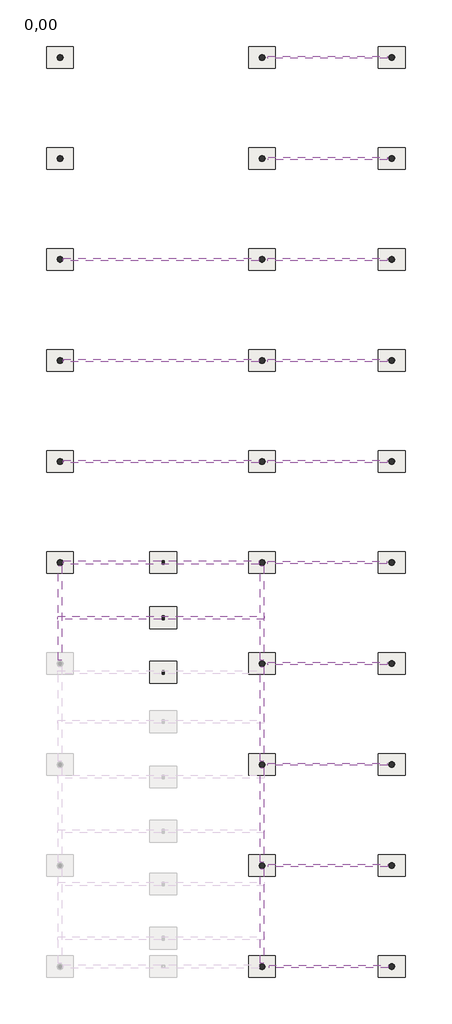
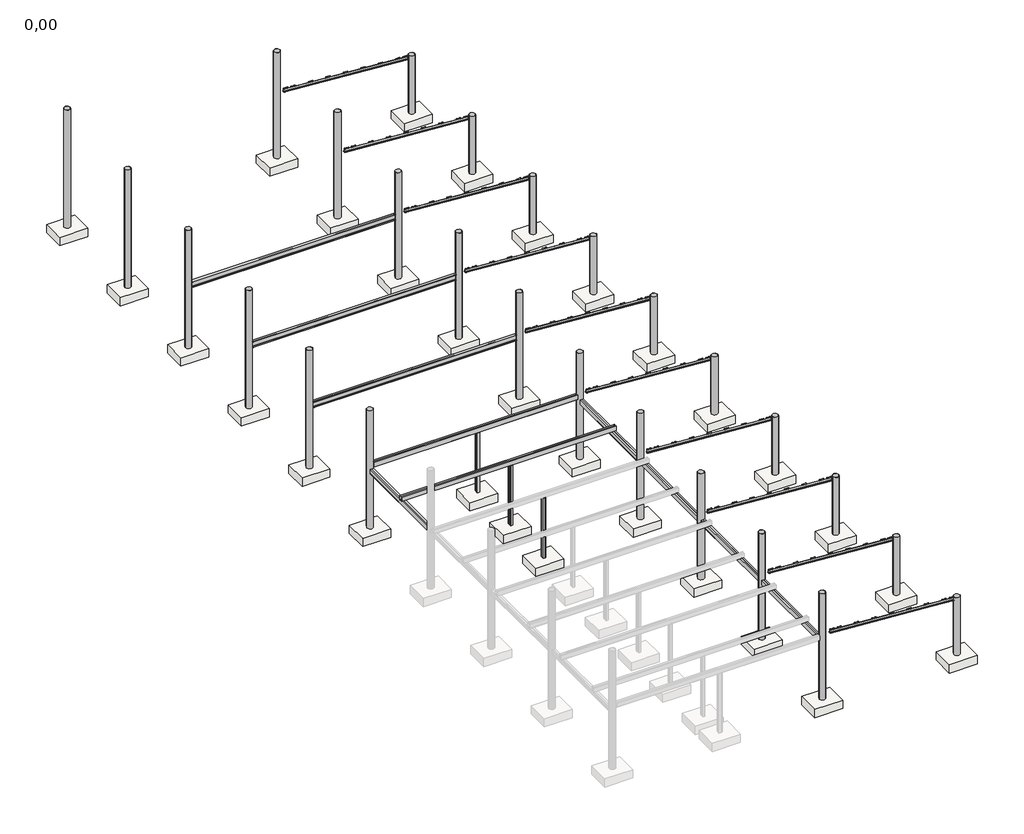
# One storey, part 2 of 2: 34 columns, 29 slabs, 20 beams.
"""IFC4 building model written with IfcOpenShell, lengths in millimetres."""

from ifc_helpers import new_model, si_unit, point, frame_2d, origin, origin_with_axes, place, context, project, spatial, polyline, circle_curve, trimmed, segment, composite_curve, outline, extrude, transform, mapped, element, save
from components import beam_1_2i300_a4cd45c2, beam_2c_260_021a14dd, beam_2c_270e_83d6d2ef, beam_2c_270e_b8db1d55, i330pe_6d48d478, r355_6x10_451059c9, r355_6x10_30b81005, r355_6x10_7112e704, slab_1600x1300x500_7dd4b297

model = new_model("IFC4")

# Units and contexts
model_context = context("Model", 3, world=origin())
ifc_project = project(units=[si_unit("LENGTHUNIT", "METRE", prefix="MILLI")], contexts=[model_context])

# Site, building, storey
site = spatial("IfcSite", under=ifc_project)
building = spatial("IfcBuilding", under=site)
storey = spatial("IfcBuildingStorey", under=building, Name="0,00", Elevation=0.0)

# Beams
placement = place(None, origin())
beam_1_2i300_shape = beam_1_2i300_a4cd45c2(model_context)
element("IfcBeam", 1, ObjectType="Wzmocnienie do belek - dokładny podział : 1/2I300", at=placement, inside=storey, context=model_context, shape_type="MappedRepresentation", body=[
    mapped(beam_1_2i300_shape, transform((4333.1344195, -36912.318995, 4034.3512677), x_axis=(0.9974611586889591, 0.0, -0.07121261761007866), y_axis=(0.0, 1.0000000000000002, 0.0), z_axis=(0.07121261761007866, 0.0, 0.997461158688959))),
])
element("IfcBeam", 2, ObjectType="Wzmocnienie do belek - dokładny podział : 1/2I300", at=placement, inside=storey, context=model_context, shape_type="MappedRepresentation", body=[
    mapped(beam_1_2i300_shape, transform((4292.3510603, -30911.3173906, 4027.0046972), x_axis=(0.997461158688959, 0.0, -0.0712126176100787), y_axis=(0.0, 1.0, 0.0), z_axis=(0.07121261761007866, 0.0, 0.997461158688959))),
])
element("IfcBeam", 3, ObjectType="Wzmocnienie do belek - dokładny podział : 1/2I300", at=placement, inside=storey, context=model_context, shape_type="MappedRepresentation", body=[
    mapped(beam_1_2i300_shape, transform((4262.3883825, -24909.3570618, 4029.1438488), x_axis=(0.9974611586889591, 0.0, -0.07121261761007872), y_axis=(0.0, 1.0000000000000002, 0.0), z_axis=(0.07121261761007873, 0.0, 0.997461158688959))),
])
element("IfcBeam", 4, ObjectType="Wzmocnienie do belek - dokładny podział : 1/2I300", at=placement, inside=storey, context=model_context, shape_type="MappedRepresentation", body=[
    mapped(beam_1_2i300_shape, transform((4272.7051825, -18911.4095905, 4028.4072925), x_axis=(0.9974611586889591, 0.0, -0.07121261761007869), y_axis=(0.0, 1.0000000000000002, 0.0), z_axis=(0.07121261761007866, 0.0, 0.997461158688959))),
])
element("IfcBeam", 5, ObjectType="Wzmocnienie do belek - dokładny podział : 1/2I300", at=placement, inside=storey, context=model_context, shape_type="MappedRepresentation", body=[
    mapped(beam_1_2i300_shape, transform((4257.2697902, -12910.6408419, 4029.509285), x_axis=(0.997461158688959, 0.0, -0.07121261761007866), y_axis=(0.0, 1.0, 0.0), z_axis=(0.07121261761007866, 0.0, 0.997461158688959))),
])
element("IfcBeam", 6, ObjectType="Wzmocnienie do belek - dokładny podział : 1/2I300", at=placement, inside=storey, context=model_context, shape_type="MappedRepresentation", body=[
    mapped(beam_1_2i300_shape, transform((4265.0414291, -6910.850217, 4028.9544376), x_axis=(0.997461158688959, 0.0, -0.07121261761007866), y_axis=(0.0, 1.0, 0.0), z_axis=(0.07121261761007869, 0.0, 0.997461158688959))),
])
element("IfcBeam", 7, ObjectType="Wzmocnienie do belek - dokładny podział : 1/2I300", at=placement, inside=storey, context=model_context, shape_type="MappedRepresentation", body=[
    mapped(beam_1_2i300_shape, transform((4266.6212077, -910.9235463, 4028.8416511), x_axis=(0.997461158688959, 0.0, -0.07121261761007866), y_axis=(0.0, 1.0, 0.0), z_axis=(0.07121261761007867, 0.0, 0.997461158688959))),
])
element("IfcBeam", 8, ObjectType="Wzmocnienie do belek - dokładny podział : 1/2I300", at=placement, inside=storey, context=model_context, shape_type="MappedRepresentation", body=[
    mapped(beam_1_2i300_shape, transform((4260.7198895, 5087.3362778, 4029.262969), x_axis=(0.9974611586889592, 0.0, -0.07121261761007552), y_axis=(0.0, 1.0000000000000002, 0.0), z_axis=(0.07121261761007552, 0.0, 0.9974611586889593))),
])
element("IfcBeam", 9, ObjectType="Wzmocnienie do belek - dokładny podział : 1/2I300", at=placement, inside=storey, context=model_context, shape_type="MappedRepresentation", body=[
    mapped(beam_1_2i300_shape, transform((4280.7041109, 11085.9754383, 4027.836218), x_axis=(0.997461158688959, 0.0, -0.07121261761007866), y_axis=(0.0, 1.0, 0.0), z_axis=(0.07121261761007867, 0.0, 0.997461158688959))),
])
element("IfcBeam", 10, ObjectType="Wzmocnienie do belek - dokładny podział : 1/2I300", at=placement, inside=storey, context=model_context, shape_type="MappedRepresentation", body=[
    mapped(beam_1_2i300_shape, transform((4273.2402527, 17090.3154767, 4028.3690918), x_axis=(0.9974611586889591, 0.0, -0.07121261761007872), y_axis=(0.0, 1.0000000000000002, 0.0), z_axis=(0.0712126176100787, 0.0, 0.997461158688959))),
])
beam_2c_260_shape = beam_2c_260_021a14dd(model_context)
element("IfcBeam", 11, ObjectType="RPLN C - Ceowniki normalne_beamx2 : 2C 260", at=placement, inside=storey, context=model_context, shape_type="MappedRepresentation", body=[
    mapped(beam_2c_260_shape, transform((-2097.0111104, -16192.4816585, 3770.0), x_axis=(1.0, 0.0, 0.0), y_axis=(0.0, 1.0, 0.0), z_axis=(0.0, 0.0, 1.0))),
])
beam_2c_270e_shape = beam_2c_270e_83d6d2ef(model_context)
element("IfcBeam", 12, ObjectType="RPLN C - Ceowniki ekonomiczne_beamx2 : 2C 270E", at=placement, inside=storey, context=model_context, shape_type="MappedRepresentation", body=[
    mapped(beam_2c_270e_shape, transform((-8097.0111104, -15912.4816585, 3505.0), x_axis=(0.0, 1.0, 0.0), y_axis=(-1.0, 0.0, 0.0), z_axis=(0.0, 0.0, 1.0))),
])
element("IfcBeam", 13, ObjectType="RPLN C - Ceowniki ekonomiczne_beamx2 : 2C 270E", at=placement, inside=storey, context=model_context, shape_type="MappedRepresentation", body=[
    mapped(beam_2c_270e_shape, transform((3902.9888896, -15912.4816585, 3505.0), x_axis=(0.0, -1.0, 0.0), y_axis=(1.0, 0.0, 0.0), z_axis=(0.0, 0.0, 1.0))),
])
element("IfcBeam", 14, ObjectType="RPLN C - Ceowniki ekonomiczne_beamx2 : 2C 270E", at=placement, inside=storey, context=model_context, shape_type="MappedRepresentation", body=[
    mapped(beam_2c_270e_shape, transform((3902.9888896, -21912.4816585, 3505.0), x_axis=(0.0, -1.0, 0.0), y_axis=(1.0, 0.0, 0.0), z_axis=(0.0, 0.0, 1.0))),
])
element("IfcBeam", 15, ObjectType="RPLN C - Ceowniki ekonomiczne_beamx2 : 2C 270E", at=placement, inside=storey, context=model_context, shape_type="MappedRepresentation", body=[
    mapped(beam_2c_270e_shape, transform((3902.9888896, -27912.4816585, 3505.0), x_axis=(0.0, -1.0, 0.0), y_axis=(1.0, 0.0, 0.0), z_axis=(0.0, 0.0, 1.0))),
])
element("IfcBeam", 16, ObjectType="RPLN C - Ceowniki ekonomiczne_beamx2 : 2C 270E", at=placement, inside=storey, context=model_context, shape_type="MappedRepresentation", body=[
    mapped(beam_2c_270e_shape, transform((3902.9888896, -33912.4816585, 3505.0), x_axis=(0.0, -1.0, 0.0), y_axis=(1.0, 0.0, 0.0), z_axis=(0.0, 0.0, 1.0))),
])
beam_2c_270e_2_shape = beam_2c_270e_b8db1d55(model_context)
element("IfcBeam", 17, ObjectType="RPLN C - Ceowniki ekonomiczne_beamx2 : 2C 270E", at=placement, inside=storey, context=model_context, shape_type="MappedRepresentation", body=[
    mapped(beam_2c_270e_2_shape, transform((-2097.0111104, -12912.4816585, 3765.0), x_axis=(1.0, 0.0, 0.0), y_axis=(0.0, 1.0, 0.0), z_axis=(0.0, 0.0, 1.0))),
])
i330pe_shape = i330pe_6d48d478(model_context)
element("IfcBeam", 18, ObjectType="RPLN IPE - Dwuteowniki równoległościenne : I330PE", at=placement, inside=storey, context=model_context, shape_type="MappedRepresentation", body=[
    mapped(i330pe_shape, transform((-2097.0111104, -6912.4816585, 3735.0), x_axis=(1.0, 0.0, 0.0), y_axis=(0.0, 1.0, 0.0), z_axis=(0.0, 0.0, 1.0))),
])
element("IfcBeam", 19, ObjectType="RPLN IPE - Dwuteowniki równoległościenne : I330PE", at=placement, inside=storey, context=model_context, shape_type="MappedRepresentation", body=[
    mapped(i330pe_shape, transform((-2097.0111104, -912.4816585, 3735.0), x_axis=(1.0, 0.0, 0.0), y_axis=(0.0, 1.0, 0.0), z_axis=(0.0, 0.0, 1.0))),
])
element("IfcBeam", 20, ObjectType="RPLN IPE - Dwuteowniki równoległościenne : I330PE", at=placement, inside=storey, context=model_context, shape_type="MappedRepresentation", body=[
    mapped(i330pe_shape, transform((-2097.0111104, 5087.5183415, 3735.0), x_axis=(1.0, 0.0, 0.0), y_axis=(0.0, 1.0, 0.0), z_axis=(0.0, 0.0, 1.0))),
])

# Columns
element("IfcColumn", 21, ObjectType="RPLN C - Ceowniki normalne_Column -x2 : C120", at=placement, inside=storey, context=model_context, shape_type="SweptSolid", body=[
    extrude(outline(composite_curve([segment(polyline([(-1897.0111104, -12967.4816585), (-2017.0111104, -12967.4816585), (-2017.0111104, -12912.4816585), (-2008.0111104, -12912.4816585), (-2008.0111104, -12952.9816585)]), True, "CONTINUOUS"), segment(trimmed(circle_curve(frame_2d((-2000.5111104, -12952.9816585)), 7.5), [point((-2008.0111104, -12952.9816585))], [point((-2000.5111104, -12960.4816585))], True, "CARTESIAN"), True, "CONTINUOUS"), segment(polyline([(-2000.5111104, -12960.4816585), (-1913.5111104, -12960.4816585)]), True, "CONTINUOUS"), segment(trimmed(circle_curve(frame_2d((-1913.5111104, -12952.9816585)), 7.5), [point((-1913.5111104, -12960.4816585))], [point((-1906.0111104, -12952.9816585))], True, "CARTESIAN"), True, "CONTINUOUS"), segment(polyline([(-1906.0111104, -12952.9816585), (-1906.0111104, -12912.4816585), (-1897.0111104, -12912.4816585), (-1897.0111104, -12967.4816585)]), True, "CONTINUOUS")], self_intersect=False)), origin_with_axes(), (0.0, 0.0, 1.0), 3630.0),
    extrude(outline(composite_curve([segment(polyline([(-1897.0111104, -12857.4816585), (-1897.0111104, -12912.4816585), (-1906.0111104, -12912.4816585), (-1906.0111104, -12872.4816585)]), True, "CONTINUOUS"), segment(trimmed(circle_curve(frame_2d((-1914.0111104, -12872.4816585)), 8.0), [point((-1906.0111104, -12872.4816585))], [point((-1914.0111104, -12864.4816585))], True, "CARTESIAN"), True, "CONTINUOUS"), segment(polyline([(-1914.0111104, -12864.4816585), (-2000.5111104, -12864.4816585)]), True, "CONTINUOUS"), segment(trimmed(circle_curve(frame_2d((-2000.5111104, -12871.9816585)), 7.5), [point((-2000.5111104, -12864.4816585))], [point((-2008.0111104, -12871.9816585))], True, "CARTESIAN"), True, "CONTINUOUS"), segment(polyline([(-2008.0111104, -12871.9816585), (-2008.0111104, -12912.4816585), (-2017.0111104, -12912.4816585), (-2017.0111104, -12857.4816585), (-1897.0111104, -12857.4816585)]), True, "CONTINUOUS")], self_intersect=False)), origin_with_axes(), (0.0, 0.0, 1.0), 3630.0),
])
element("IfcColumn", 22, ObjectType="RPLN C - Ceowniki normalne_Column -x2 : C120", at=placement, inside=storey, context=model_context, shape_type="SweptSolid", body=[
    extrude(outline(composite_curve([segment(polyline([(-2017.0111104, -16137.4816585), (-1897.0111104, -16137.4816585), (-1897.0111104, -16192.4816585), (-1906.0111104, -16192.4816585), (-1906.0111104, -16151.9816585)]), True, "CONTINUOUS"), segment(trimmed(circle_curve(frame_2d((-1913.5111104, -16151.9816585)), 7.5), [point((-1906.0111104, -16151.9816585))], [point((-1913.5111104, -16144.4816585))], True, "CARTESIAN"), True, "CONTINUOUS"), segment(polyline([(-1913.5111104, -16144.4816585), (-2000.5111104, -16144.4816585)]), True, "CONTINUOUS"), segment(trimmed(circle_curve(frame_2d((-2000.5111104, -16151.9816585)), 7.5), [point((-2000.5111104, -16144.4816585))], [point((-2008.0111104, -16151.9816585))], True, "CARTESIAN"), True, "CONTINUOUS"), segment(polyline([(-2008.0111104, -16151.9816585), (-2008.0111104, -16192.4816585), (-2017.0111104, -16192.4816585), (-2017.0111104, -16137.4816585)]), True, "CONTINUOUS")], self_intersect=False)), origin_with_axes(), (0.0, 0.0, 1.0), 3640.0),
    extrude(outline(composite_curve([segment(polyline([(-2017.0111104, -16247.4816585), (-2017.0111104, -16192.4816585), (-2008.0111104, -16192.4816585), (-2008.0111104, -16232.4816585)]), True, "CONTINUOUS"), segment(trimmed(circle_curve(frame_2d((-2000.0111104, -16232.4816585)), 8.0), [point((-2008.0111104, -16232.4816585))], [point((-2000.0111104, -16240.4816585))], True, "CARTESIAN"), True, "CONTINUOUS"), segment(polyline([(-2000.0111104, -16240.4816585), (-1913.5111104, -16240.4816585)]), True, "CONTINUOUS"), segment(trimmed(circle_curve(frame_2d((-1913.5111104, -16232.9816585)), 7.5), [point((-1913.5111104, -16240.4816585))], [point((-1906.0111104, -16232.9816585))], True, "CARTESIAN"), True, "CONTINUOUS"), segment(polyline([(-1906.0111104, -16232.9816585), (-1906.0111104, -16192.4816585), (-1897.0111104, -16192.4816585), (-1897.0111104, -16247.4816585), (-2017.0111104, -16247.4816585)]), True, "CONTINUOUS")], self_intersect=False)), origin_with_axes(), (0.0, 0.0, 1.0), 3640.0),
])
element("IfcColumn", 23, ObjectType="RPLN C - Ceowniki normalne_Column : C120", at=placement, inside=storey, context=model_context, shape_type="SweptSolid", body=[
    extrude(outline(composite_curve([segment(polyline([(-2017.0111104, -12802.4816585), (-1897.0111104, -12802.4816585), (-1897.0111104, -12857.4816585), (-1906.0111104, -12857.4816585), (-1906.0111104, -12818.4816585)]), True, "CONTINUOUS"), segment(trimmed(circle_curve(frame_2d((-1915.0111104, -12818.4816585)), 9.0), [point((-1906.0111104, -12818.4816585))], [point((-1915.0111104, -12809.4816585))], True, "CARTESIAN"), True, "CONTINUOUS"), segment(polyline([(-1915.0111104, -12809.4816585), (-1999.0111104, -12809.4816585)]), True, "CONTINUOUS"), segment(trimmed(circle_curve(frame_2d((-1999.0111104, -12818.4816585)), 9.0), [point((-1999.0111104, -12809.4816585))], [point((-2008.0111104, -12818.4816585))], True, "CARTESIAN"), True, "CONTINUOUS"), segment(polyline([(-2008.0111104, -12818.4816585), (-2008.0111104, -12857.4816585), (-2017.0111104, -12857.4816585), (-2017.0111104, -12802.4816585)]), True, "CONTINUOUS")], self_intersect=False)), origin_with_axes(), (0.0, 0.0, 1.0), 3630.0),
])
element("IfcColumn", 24, ObjectType="RPLN C - Ceowniki normalne_Column : C120", at=placement, inside=storey, context=model_context, shape_type="SweptSolid", body=[
    extrude(outline(composite_curve([segment(polyline([(-1897.0111104, -13022.4816585), (-2017.0111104, -13022.4816585), (-2017.0111104, -12967.4816585), (-2008.0111104, -12967.4816585), (-2008.0111104, -13006.4816585)]), True, "CONTINUOUS"), segment(trimmed(circle_curve(frame_2d((-1999.0111104, -13006.4816585)), 9.0), [point((-2008.0111104, -13006.4816585))], [point((-1999.0111104, -13015.4816585))], True, "CARTESIAN"), True, "CONTINUOUS"), segment(polyline([(-1999.0111104, -13015.4816585), (-1915.0111104, -13015.4816585)]), True, "CONTINUOUS"), segment(trimmed(circle_curve(frame_2d((-1915.0111104, -13006.4816585)), 9.0), [point((-1915.0111104, -13015.4816585))], [point((-1906.0111104, -13006.4816585))], True, "CARTESIAN"), True, "CONTINUOUS"), segment(polyline([(-1906.0111104, -13006.4816585), (-1906.0111104, -12967.4816585), (-1897.0111104, -12967.4816585), (-1897.0111104, -13022.4816585)]), True, "CONTINUOUS")], self_intersect=False)), origin_with_axes(), (0.0, 0.0, 1.0), 3630.0),
])
element("IfcColumn", 25, ObjectType="RPLN C - Ceowniki normalne_Column : C120", at=placement, inside=storey, context=model_context, shape_type="SweptSolid", body=[
    extrude(outline(composite_curve([segment(polyline([(-2017.0111104, -16082.4816585), (-1897.0111104, -16082.4816585), (-1897.0111104, -16137.4816585), (-1906.0111104, -16137.4816585), (-1906.0111104, -16098.4816585)]), True, "CONTINUOUS"), segment(trimmed(circle_curve(frame_2d((-1915.0111104, -16098.4816585)), 9.0), [point((-1906.0111104, -16098.4816585))], [point((-1915.0111104, -16089.4816585))], True, "CARTESIAN"), True, "CONTINUOUS"), segment(polyline([(-1915.0111104, -16089.4816585), (-1999.0111104, -16089.4816585)]), True, "CONTINUOUS"), segment(trimmed(circle_curve(frame_2d((-1999.0111104, -16098.4816585)), 9.0), [point((-1999.0111104, -16089.4816585))], [point((-2008.0111104, -16098.4816585))], True, "CARTESIAN"), True, "CONTINUOUS"), segment(polyline([(-2008.0111104, -16098.4816585), (-2008.0111104, -16137.4816585), (-2017.0111104, -16137.4816585), (-2017.0111104, -16082.4816585)]), True, "CONTINUOUS")], self_intersect=False)), origin_with_axes(), (0.0, 0.0, 1.0), 3640.0),
])
element("IfcColumn", 26, ObjectType="RPLN C - Ceowniki normalne_Column : C120", at=placement, inside=storey, context=model_context, shape_type="SweptSolid", body=[
    extrude(outline(composite_curve([segment(polyline([(-1897.0111104, -16302.4816585), (-2017.0111104, -16302.4816585), (-2017.0111104, -16247.4816585), (-2008.0111104, -16247.4816585), (-2008.0111104, -16286.4816585)]), True, "CONTINUOUS"), segment(trimmed(circle_curve(frame_2d((-1999.0111104, -16286.4816585)), 9.0), [point((-2008.0111104, -16286.4816585))], [point((-1999.0111104, -16295.4816585))], True, "CARTESIAN"), True, "CONTINUOUS"), segment(polyline([(-1999.0111104, -16295.4816585), (-1915.0111104, -16295.4816585)]), True, "CONTINUOUS"), segment(trimmed(circle_curve(frame_2d((-1915.0111104, -16286.4816585)), 9.0), [point((-1915.0111104, -16295.4816585))], [point((-1906.0111104, -16286.4816585))], True, "CARTESIAN"), True, "CONTINUOUS"), segment(polyline([(-1906.0111104, -16286.4816585), (-1906.0111104, -16247.4816585), (-1897.0111104, -16247.4816585), (-1897.0111104, -16302.4816585)]), True, "CONTINUOUS")], self_intersect=False)), origin_with_axes(), (0.0, 0.0, 1.0), 3640.0),
])
element("IfcColumn", 27, ObjectType="RPLN C - Ceowniki normalne_Column : C120", at=placement, inside=storey, context=model_context, shape_type="SweptSolid", body=[
    extrude(outline(composite_curve([segment(polyline([(-2017.0111104, -19332.4816585), (-1897.0111104, -19332.4816585), (-1897.0111104, -19387.4816585), (-1906.0111104, -19387.4816585), (-1906.0111104, -19348.4816585)]), True, "CONTINUOUS"), segment(trimmed(circle_curve(frame_2d((-1915.0111104, -19348.4816585)), 9.0), [point((-1906.0111104, -19348.4816585))], [point((-1915.0111104, -19339.4816585))], True, "CARTESIAN"), True, "CONTINUOUS"), segment(polyline([(-1915.0111104, -19339.4816585), (-1999.0111104, -19339.4816585)]), True, "CONTINUOUS"), segment(trimmed(circle_curve(frame_2d((-1999.0111104, -19348.4816585)), 9.0), [point((-1999.0111104, -19339.4816585))], [point((-2008.0111104, -19348.4816585))], True, "CARTESIAN"), True, "CONTINUOUS"), segment(polyline([(-2008.0111104, -19348.4816585), (-2008.0111104, -19387.4816585), (-2017.0111104, -19387.4816585), (-2017.0111104, -19332.4816585)]), True, "CONTINUOUS")], self_intersect=False)), origin_with_axes(), (0.0, 0.0, 1.0), 3640.0),
])
element("IfcColumn", 28, ObjectType="RPLN C - Ceowniki normalne_Column : C120", at=placement, inside=storey, context=model_context, shape_type="SweptSolid", body=[
    extrude(outline(composite_curve([segment(polyline([(-1897.0111104, -19552.4816585), (-2017.0111104, -19552.4816585), (-2017.0111104, -19497.4816585), (-2008.0111104, -19497.4816585), (-2008.0111104, -19536.4816585)]), True, "CONTINUOUS"), segment(trimmed(circle_curve(frame_2d((-1999.0111104, -19536.4816585)), 9.0), [point((-2008.0111104, -19536.4816585))], [point((-1999.0111104, -19545.4816585))], True, "CARTESIAN"), True, "CONTINUOUS"), segment(polyline([(-1999.0111104, -19545.4816585), (-1915.0111104, -19545.4816585)]), True, "CONTINUOUS"), segment(trimmed(circle_curve(frame_2d((-1915.0111104, -19536.4816585)), 9.0), [point((-1915.0111104, -19545.4816585))], [point((-1906.0111104, -19536.4816585))], True, "CARTESIAN"), True, "CONTINUOUS"), segment(polyline([(-1906.0111104, -19536.4816585), (-1906.0111104, -19497.4816585), (-1897.0111104, -19497.4816585), (-1897.0111104, -19552.4816585)]), True, "CONTINUOUS")], self_intersect=False)), origin_with_axes(), (0.0, 0.0, 1.0), 3640.0),
])
r355_6x10_shape = r355_6x10_451059c9(model_context)
element("IfcColumn", 29, ObjectType="RPLN RO - Rury okragle_Column : R355.6x10", at=placement, inside=storey, context=model_context, shape_type="MappedRepresentation", body=[
    mapped(r355_6x10_shape, transform((3902.9888896, -36912.4816585, 0.0), x_axis=(-1.0, 0.0, 0.0), y_axis=(0.0, -1.0, 0.0), z_axis=(0.0, 0.0, 1.0))),
])
element("IfcColumn", 30, ObjectType="RPLN RO - Rury okragle_Column : R355.6x10", at=placement, inside=storey, context=model_context, shape_type="MappedRepresentation", body=[
    mapped(r355_6x10_shape, transform((3902.9888896, -30912.4816585, 0.0), x_axis=(-1.0, 0.0, 0.0), y_axis=(0.0, -1.0, 0.0), z_axis=(0.0, 0.0, 1.0))),
])
element("IfcColumn", 31, ObjectType="RPLN RO - Rury okragle_Column : R355.6x10", at=placement, inside=storey, context=model_context, shape_type="MappedRepresentation", body=[
    mapped(r355_6x10_shape, transform((3902.9888896, -24912.4816585, 0.0), x_axis=(-1.0, 0.0, 0.0), y_axis=(0.0, -1.0, 0.0), z_axis=(0.0, 0.0, 1.0))),
])
element("IfcColumn", 32, ObjectType="RPLN RO - Rury okragle_Column : R355.6x10", at=placement, inside=storey, context=model_context, shape_type="MappedRepresentation", body=[
    mapped(r355_6x10_shape, transform((3902.9888896, -18912.4816585, 0.0), x_axis=(-1.0, 0.0, 0.0), y_axis=(0.0, -1.0, 0.0), z_axis=(0.0, 0.0, 1.0))),
])
element("IfcColumn", 33, ObjectType="RPLN RO - Rury okragle_Column : R355.6x10", at=placement, inside=storey, context=model_context, shape_type="MappedRepresentation", body=[
    mapped(r355_6x10_shape, transform((3902.9888896, -12912.4816585, 0.0), x_axis=(-1.0, 0.0, 0.0), y_axis=(0.0, -1.0, 0.0), z_axis=(0.0, 0.0, 1.0))),
])
element("IfcColumn", 34, ObjectType="RPLN RO - Rury okragle_Column : R355.6x10", at=placement, inside=storey, context=model_context, shape_type="MappedRepresentation", body=[
    mapped(r355_6x10_shape, transform((3902.9888896, -6912.4816585, 0.0), x_axis=(-1.0, 0.0, 0.0), y_axis=(0.0, -1.0, 0.0), z_axis=(0.0, 0.0, 1.0))),
])
element("IfcColumn", 35, ObjectType="RPLN RO - Rury okragle_Column : R355.6x10", at=placement, inside=storey, context=model_context, shape_type="MappedRepresentation", body=[
    mapped(r355_6x10_shape, transform((3902.9888896, -912.4816585, 0.0), x_axis=(-1.0, 0.0, 0.0), y_axis=(0.0, -1.0, 0.0), z_axis=(0.0, 0.0, 1.0))),
])
element("IfcColumn", 36, ObjectType="RPLN RO - Rury okragle_Column : R355.6x10", at=placement, inside=storey, context=model_context, shape_type="MappedRepresentation", body=[
    mapped(r355_6x10_shape, transform((3902.9888896, 5087.5183415, 0.0), x_axis=(1.0, 0.0, 0.0), y_axis=(0.0, 1.0, 0.0), z_axis=(0.0, 0.0, 1.0))),
])
element("IfcColumn", 37, ObjectType="RPLN RO - Rury okragle_Column : R355.6x10", at=placement, inside=storey, context=model_context, shape_type="MappedRepresentation", body=[
    mapped(r355_6x10_shape, transform((3902.9888896, 11087.5183415, 0.0), x_axis=(-1.0, 0.0, 0.0), y_axis=(0.0, -1.0, 0.0), z_axis=(0.0, 0.0, 1.0))),
])
element("IfcColumn", 38, ObjectType="RPLN RO - Rury okragle_Column : R355.6x10", at=placement, inside=storey, context=model_context, shape_type="MappedRepresentation", body=[
    mapped(r355_6x10_shape, transform((3902.9888896, 17087.5183415, 0.0), x_axis=(-1.0, 0.0, 0.0), y_axis=(0.0, -1.0, 0.0), z_axis=(0.0, 0.0, 1.0))),
])
r355_6x10_2_shape = r355_6x10_30b81005(model_context)
element("IfcColumn", 39, ObjectType="RPLN RO - Rury okragle_Column : R355.6x10", at=placement, inside=storey, context=model_context, shape_type="MappedRepresentation", body=[
    mapped(r355_6x10_2_shape, transform((-8097.0111104, -12912.4816585, 0.0), x_axis=(-1.0, 0.0, 0.0), y_axis=(0.0, -1.0, 0.0), z_axis=(0.0, 0.0, 1.0))),
])
element("IfcColumn", 40, ObjectType="RPLN RO - Rury okragle_Column : R355.6x10", at=placement, inside=storey, context=model_context, shape_type="MappedRepresentation", body=[
    mapped(r355_6x10_2_shape, transform((-8097.0111104, -6912.4816585, 0.0), x_axis=(-1.0, 0.0, 0.0), y_axis=(0.0, -1.0, 0.0), z_axis=(0.0, 0.0, 1.0))),
])
element("IfcColumn", 41, ObjectType="RPLN RO - Rury okragle_Column : R355.6x10", at=placement, inside=storey, context=model_context, shape_type="MappedRepresentation", body=[
    mapped(r355_6x10_2_shape, transform((-8097.0111104, -912.4816585, 0.0), x_axis=(-1.0, 0.0, 0.0), y_axis=(0.0, -1.0, 0.0), z_axis=(0.0, 0.0, 1.0))),
])
element("IfcColumn", 42, ObjectType="RPLN RO - Rury okragle_Column : R355.6x10", at=placement, inside=storey, context=model_context, shape_type="MappedRepresentation", body=[
    mapped(r355_6x10_2_shape, transform((-8097.0111104, 5087.5183415, 0.0), x_axis=(1.0, 0.0, 0.0), y_axis=(0.0, 1.0, 0.0), z_axis=(0.0, 0.0, 1.0))),
])
element("IfcColumn", 43, ObjectType="RPLN RO - Rury okragle_Column : R355.6x10", at=placement, inside=storey, context=model_context, shape_type="MappedRepresentation", body=[
    mapped(r355_6x10_2_shape, transform((-8097.0111104, 11087.5183415, 0.0), x_axis=(-1.0, 0.0, 0.0), y_axis=(0.0, -1.0, 0.0), z_axis=(0.0, 0.0, 1.0))),
])
element("IfcColumn", 44, ObjectType="RPLN RO - Rury okragle_Column : R355.6x10", at=placement, inside=storey, context=model_context, shape_type="MappedRepresentation", body=[
    mapped(r355_6x10_2_shape, transform((-8097.0111104, 17087.5183415, 0.0), x_axis=(-1.0, 0.0, 0.0), y_axis=(0.0, -1.0, 0.0), z_axis=(0.0, 0.0, 1.0))),
])
r355_6x10_3_shape = r355_6x10_7112e704(model_context)
element("IfcColumn", 45, ObjectType="RPLN RO - Rury okragle_Column : R355.6x10", at=placement, inside=storey, context=model_context, shape_type="MappedRepresentation", body=[
    mapped(r355_6x10_3_shape, transform((11602.963474, -36912.4816585, 0.0), x_axis=(-1.0, 0.0, 0.0), y_axis=(0.0, -1.0, 0.0), z_axis=(0.0, 0.0, 1.0))),
])
element("IfcColumn", 46, ObjectType="RPLN RO - Rury okragle_Column : R355.6x10", at=placement, inside=storey, context=model_context, shape_type="MappedRepresentation", body=[
    mapped(r355_6x10_3_shape, transform((11602.963474, -30912.4816585, 0.0), x_axis=(-1.0, 0.0, 0.0), y_axis=(0.0, -1.0, 0.0), z_axis=(0.0, 0.0, 1.0))),
])
element("IfcColumn", 47, ObjectType="RPLN RO - Rury okragle_Column : R355.6x10", at=placement, inside=storey, context=model_context, shape_type="MappedRepresentation", body=[
    mapped(r355_6x10_3_shape, transform((11602.963474, -24912.4816585, 0.0), x_axis=(-1.0, 0.0, 0.0), y_axis=(0.0, -1.0, 0.0), z_axis=(0.0, 0.0, 1.0))),
])
element("IfcColumn", 48, ObjectType="RPLN RO - Rury okragle_Column : R355.6x10", at=placement, inside=storey, context=model_context, shape_type="MappedRepresentation", body=[
    mapped(r355_6x10_3_shape, transform((11602.963474, -18912.4816585, 0.0), x_axis=(-1.0, 0.0, 0.0), y_axis=(0.0, -1.0, 0.0), z_axis=(0.0, 0.0, 1.0))),
])
element("IfcColumn", 49, ObjectType="RPLN RO - Rury okragle_Column : R355.6x10", at=placement, inside=storey, context=model_context, shape_type="MappedRepresentation", body=[
    mapped(r355_6x10_3_shape, transform((11602.963474, -12912.4816585, 0.0), x_axis=(-1.0, 0.0, 0.0), y_axis=(0.0, -1.0, 0.0), z_axis=(0.0, 0.0, 1.0))),
])
element("IfcColumn", 50, ObjectType="RPLN RO - Rury okragle_Column : R355.6x10", at=placement, inside=storey, context=model_context, shape_type="MappedRepresentation", body=[
    mapped(r355_6x10_3_shape, transform((11602.963474, -6912.4816585, 0.0), x_axis=(-1.0, 0.0, 0.0), y_axis=(0.0, -1.0, 0.0), z_axis=(0.0, 0.0, 1.0))),
])
element("IfcColumn", 51, ObjectType="RPLN RO - Rury okragle_Column : R355.6x10", at=placement, inside=storey, context=model_context, shape_type="MappedRepresentation", body=[
    mapped(r355_6x10_3_shape, transform((11602.963474, -912.4816585, 0.0), x_axis=(-1.0, 0.0, 0.0), y_axis=(0.0, -1.0, 0.0), z_axis=(0.0, 0.0, 1.0))),
])
element("IfcColumn", 52, ObjectType="RPLN RO - Rury okragle_Column : R355.6x10", at=placement, inside=storey, context=model_context, shape_type="MappedRepresentation", body=[
    mapped(r355_6x10_3_shape, transform((11602.963474, 5087.5183415, 0.0), x_axis=(1.0, 0.0, 0.0), y_axis=(0.0, 1.0, 0.0), z_axis=(0.0, 0.0, 1.0))),
])
element("IfcColumn", 53, ObjectType="RPLN RO - Rury okragle_Column : R355.6x10", at=placement, inside=storey, context=model_context, shape_type="MappedRepresentation", body=[
    mapped(r355_6x10_3_shape, transform((11602.963474, 11087.5183415, 0.0), x_axis=(-1.0, 0.0, 0.0), y_axis=(0.0, -1.0, 0.0), z_axis=(0.0, 0.0, 1.0))),
])
element("IfcColumn", 54, ObjectType="RPLN RO - Rury okragle_Column : R355.6x10", at=placement, inside=storey, context=model_context, shape_type="MappedRepresentation", body=[
    mapped(r355_6x10_3_shape, transform((11602.963474, 17087.5183415, 0.0), x_axis=(-1.0, 0.0, 0.0), y_axis=(0.0, -1.0, 0.0), z_axis=(0.0, 0.0, 1.0))),
])

# Slabs
slab_1600x1300x500_shape = slab_1600x1300x500_7dd4b297(model_context)
element("IfcSlab", 55, ObjectType="Prostokąt-Podstawy_M : 1600x1300x500", at=placement, inside=storey, context=model_context, shape_type="MappedRepresentation", body=[
    mapped(slab_1600x1300x500_shape, transform((3902.9888896, -36912.4816585, 0.0), x_axis=(0.0, -1.0, 0.0), y_axis=(1.0, 0.0, 0.0), z_axis=(0.0, 0.0, 1.0))),
])
element("IfcSlab", 56, ObjectType="Prostokąt-Podstawy_M : 1600x1300x500", at=placement, inside=storey, context=model_context, shape_type="MappedRepresentation", body=[
    mapped(slab_1600x1300x500_shape, transform((3902.9888896, -30912.4816585, 0.0), x_axis=(0.0, -1.0, 0.0), y_axis=(1.0, 0.0, 0.0), z_axis=(0.0, 0.0, 1.0))),
])
element("IfcSlab", 57, ObjectType="Prostokąt-Podstawy_M : 1600x1300x500", at=placement, inside=storey, context=model_context, shape_type="MappedRepresentation", body=[
    mapped(slab_1600x1300x500_shape, transform((3902.9888896, -24912.4816585, 0.0), x_axis=(0.0, -1.0, 0.0), y_axis=(1.0, 0.0, 0.0), z_axis=(0.0, 0.0, 1.0))),
])
element("IfcSlab", 58, ObjectType="Prostokąt-Podstawy_M : 1600x1300x500", at=placement, inside=storey, context=model_context, shape_type="MappedRepresentation", body=[
    mapped(slab_1600x1300x500_shape, transform((3902.9888896, -18912.4816585, 0.0), x_axis=(0.0, -1.0, 0.0), y_axis=(1.0, 0.0, 0.0), z_axis=(0.0, 0.0, 1.0))),
])
element("IfcSlab", 59, ObjectType="Prostokąt-Podstawy_M : 1600x1300x500", at=placement, inside=storey, context=model_context, shape_type="MappedRepresentation", body=[
    mapped(slab_1600x1300x500_shape, transform((3902.9888896, -12912.4816585, 0.0), x_axis=(0.0, -1.0, 0.0), y_axis=(1.0, 0.0, 0.0), z_axis=(0.0, 0.0, 1.0))),
])
element("IfcSlab", 60, ObjectType="Prostokąt-Podstawy_M : 1600x1300x500", at=placement, inside=storey, context=model_context, shape_type="MappedRepresentation", body=[
    mapped(slab_1600x1300x500_shape, transform((3902.9888896, -6912.4816585, 0.0), x_axis=(0.0, -1.0, 0.0), y_axis=(1.0, 0.0, 0.0), z_axis=(0.0, 0.0, 1.0))),
])
element("IfcSlab", 61, ObjectType="Prostokąt-Podstawy_M : 1600x1300x500", at=placement, inside=storey, context=model_context, shape_type="MappedRepresentation", body=[
    mapped(slab_1600x1300x500_shape, transform((3902.9888896, -912.4816585, 0.0), x_axis=(0.0, -1.0, 0.0), y_axis=(1.0, 0.0, 0.0), z_axis=(0.0, 0.0, 1.0))),
])
element("IfcSlab", 62, ObjectType="Prostokąt-Podstawy_M : 1600x1300x500", at=placement, inside=storey, context=model_context, shape_type="MappedRepresentation", body=[
    mapped(slab_1600x1300x500_shape, transform((3902.9888896, 5087.5183415, 0.0), x_axis=(0.0, 1.0, 0.0), y_axis=(-1.0, 0.0, 0.0), z_axis=(0.0, 0.0, 1.0))),
])
element("IfcSlab", 63, ObjectType="Prostokąt-Podstawy_M : 1600x1300x500", at=placement, inside=storey, context=model_context, shape_type="MappedRepresentation", body=[
    mapped(slab_1600x1300x500_shape, transform((3902.9888896, 11087.5183415, 0.0), x_axis=(0.0, -1.0, 0.0), y_axis=(1.0, 0.0, 0.0), z_axis=(0.0, 0.0, 1.0))),
])
element("IfcSlab", 64, ObjectType="Prostokąt-Podstawy_M : 1600x1300x500", at=placement, inside=storey, context=model_context, shape_type="MappedRepresentation", body=[
    mapped(slab_1600x1300x500_shape, transform((3902.9888896, 17087.5183415, 0.0), x_axis=(0.0, -1.0, 0.0), y_axis=(1.0, 0.0, 0.0), z_axis=(0.0, 0.0, 1.0))),
])
element("IfcSlab", 65, ObjectType="Prostokąt-Podstawy_M : 1600x1300x500", at=placement, inside=storey, context=model_context, shape_type="MappedRepresentation", body=[
    mapped(slab_1600x1300x500_shape, transform((11602.963474, -36912.4816585, 0.0), x_axis=(0.0, -1.0, 0.0), y_axis=(1.0, 0.0, 0.0), z_axis=(0.0, 0.0, 1.0))),
])
element("IfcSlab", 66, ObjectType="Prostokąt-Podstawy_M : 1600x1300x500", at=placement, inside=storey, context=model_context, shape_type="MappedRepresentation", body=[
    mapped(slab_1600x1300x500_shape, transform((11602.963474, -30912.4816585, 0.0), x_axis=(0.0, -1.0, 0.0), y_axis=(1.0, 0.0, 0.0), z_axis=(0.0, 0.0, 1.0))),
])
element("IfcSlab", 67, ObjectType="Prostokąt-Podstawy_M : 1600x1300x500", at=placement, inside=storey, context=model_context, shape_type="MappedRepresentation", body=[
    mapped(slab_1600x1300x500_shape, transform((11602.963474, -24912.4816585, 0.0), x_axis=(0.0, -1.0, 0.0), y_axis=(1.0, 0.0, 0.0), z_axis=(0.0, 0.0, 1.0))),
])
element("IfcSlab", 68, ObjectType="Prostokąt-Podstawy_M : 1600x1300x500", at=placement, inside=storey, context=model_context, shape_type="MappedRepresentation", body=[
    mapped(slab_1600x1300x500_shape, transform((11602.963474, -18912.4816585, 0.0), x_axis=(0.0, -1.0, 0.0), y_axis=(1.0, 0.0, 0.0), z_axis=(0.0, 0.0, 1.0))),
])
element("IfcSlab", 69, ObjectType="Prostokąt-Podstawy_M : 1600x1300x500", at=placement, inside=storey, context=model_context, shape_type="MappedRepresentation", body=[
    mapped(slab_1600x1300x500_shape, transform((11602.963474, -12912.4816585, 0.0), x_axis=(0.0, -1.0, 0.0), y_axis=(1.0, 0.0, 0.0), z_axis=(0.0, 0.0, 1.0))),
])
element("IfcSlab", 70, ObjectType="Prostokąt-Podstawy_M : 1600x1300x500", at=placement, inside=storey, context=model_context, shape_type="MappedRepresentation", body=[
    mapped(slab_1600x1300x500_shape, transform((11602.963474, -6912.4816585, 0.0), x_axis=(0.0, -1.0, 0.0), y_axis=(1.0, 0.0, 0.0), z_axis=(0.0, 0.0, 1.0))),
])
element("IfcSlab", 71, ObjectType="Prostokąt-Podstawy_M : 1600x1300x500", at=placement, inside=storey, context=model_context, shape_type="MappedRepresentation", body=[
    mapped(slab_1600x1300x500_shape, transform((11602.963474, -912.4816585, 0.0), x_axis=(0.0, -1.0, 0.0), y_axis=(1.0, 0.0, 0.0), z_axis=(0.0, 0.0, 1.0))),
])
element("IfcSlab", 72, ObjectType="Prostokąt-Podstawy_M : 1600x1300x500", at=placement, inside=storey, context=model_context, shape_type="MappedRepresentation", body=[
    mapped(slab_1600x1300x500_shape, transform((11602.963474, 5087.5183415, 0.0), x_axis=(0.0, 1.0, 0.0), y_axis=(-1.0, 0.0, 0.0), z_axis=(0.0, 0.0, 1.0))),
])
element("IfcSlab", 73, ObjectType="Prostokąt-Podstawy_M : 1600x1300x500", at=placement, inside=storey, context=model_context, shape_type="MappedRepresentation", body=[
    mapped(slab_1600x1300x500_shape, transform((11602.963474, 11087.5183415, 0.0), x_axis=(0.0, -1.0, 0.0), y_axis=(1.0, 0.0, 0.0), z_axis=(0.0, 0.0, 1.0))),
])
element("IfcSlab", 74, ObjectType="Prostokąt-Podstawy_M : 1600x1300x500", at=placement, inside=storey, context=model_context, shape_type="MappedRepresentation", body=[
    mapped(slab_1600x1300x500_shape, transform((11602.963474, 17087.5183415, 0.0), x_axis=(0.0, -1.0, 0.0), y_axis=(1.0, 0.0, 0.0), z_axis=(0.0, 0.0, 1.0))),
])
element("IfcSlab", 75, ObjectType="Prostokąt-Podstawy_M : 1600x1300x500", at=placement, inside=storey, context=model_context, shape_type="MappedRepresentation", body=[
    mapped(slab_1600x1300x500_shape, transform((-8097.0111104, -12912.4816585, 0.0), x_axis=(0.0, -1.0, 0.0), y_axis=(1.0, 0.0, 0.0), z_axis=(0.0, 0.0, 1.0))),
])
element("IfcSlab", 76, ObjectType="Prostokąt-Podstawy_M : 1600x1300x500", at=placement, inside=storey, context=model_context, shape_type="MappedRepresentation", body=[
    mapped(slab_1600x1300x500_shape, transform((-8097.0111104, -6912.4816585, 0.0), x_axis=(0.0, -1.0, 0.0), y_axis=(1.0, 0.0, 0.0), z_axis=(0.0, 0.0, 1.0))),
])
element("IfcSlab", 77, ObjectType="Prostokąt-Podstawy_M : 1600x1300x500", at=placement, inside=storey, context=model_context, shape_type="MappedRepresentation", body=[
    mapped(slab_1600x1300x500_shape, transform((-8097.0111104, -912.4816585, 0.0), x_axis=(0.0, -1.0, 0.0), y_axis=(1.0, 0.0, 0.0), z_axis=(0.0, 0.0, 1.0))),
])
element("IfcSlab", 78, ObjectType="Prostokąt-Podstawy_M : 1600x1300x500", at=placement, inside=storey, context=model_context, shape_type="MappedRepresentation", body=[
    mapped(slab_1600x1300x500_shape, transform((-8097.0111104, 5087.5183415, 0.0), x_axis=(0.0, 1.0, 0.0), y_axis=(-1.0, 0.0, 0.0), z_axis=(0.0, 0.0, 1.0))),
])
element("IfcSlab", 79, ObjectType="Prostokąt-Podstawy_M : 1600x1300x500", at=placement, inside=storey, context=model_context, shape_type="MappedRepresentation", body=[
    mapped(slab_1600x1300x500_shape, transform((-8097.0111104, 11087.5183415, 0.0), x_axis=(0.0, -1.0, 0.0), y_axis=(1.0, 0.0, 0.0), z_axis=(0.0, 0.0, 1.0))),
])
element("IfcSlab", 80, ObjectType="Prostokąt-Podstawy_M : 1600x1300x500", at=placement, inside=storey, context=model_context, shape_type="MappedRepresentation", body=[
    mapped(slab_1600x1300x500_shape, transform((-8097.0111104, 17087.5183415, 0.0), x_axis=(0.0, -1.0, 0.0), y_axis=(1.0, 0.0, 0.0), z_axis=(0.0, 0.0, 1.0))),
])
element("IfcSlab", 81, ObjectType="Prostokąt-Podstawy_M : 1600x1300x500", at=placement, inside=storey, context=model_context, shape_type="MappedRepresentation", body=[
    mapped(slab_1600x1300x500_shape, transform((-1957.0111104, -12912.4816585, 0.0), x_axis=(0.0, 1.0, 0.0), y_axis=(-1.0, 0.0, 0.0), z_axis=(0.0, 0.0, 1.0))),
])
element("IfcSlab", 82, ObjectType="Prostokąt-Podstawy_M : 1600x1300x500", at=placement, inside=storey, context=model_context, shape_type="MappedRepresentation", body=[
    mapped(slab_1600x1300x500_shape, transform((-1957.0111104, -16192.4816585, 0.0), x_axis=(0.0, -1.0, 0.0), y_axis=(1.0, 0.0, 0.0), z_axis=(0.0, 0.0, 1.0))),
])
element("IfcSlab", 83, ObjectType="Prostokąt-Podstawy_M : 1600x1300x500", at=placement, inside=storey, context=model_context, shape_type="MappedRepresentation", body=[
    mapped(slab_1600x1300x500_shape, transform((-1957.0111104, -19442.4816585, 0.0), x_axis=(0.0, -1.0, 0.0), y_axis=(1.0, 0.0, 0.0), z_axis=(0.0, 0.0, 1.0))),
])

save(model, "model.ifc")
